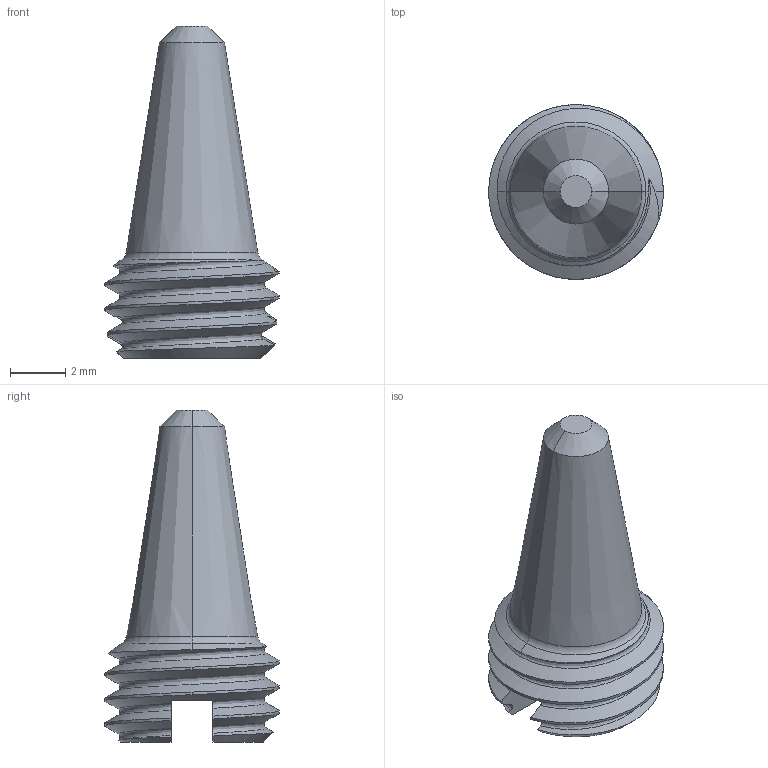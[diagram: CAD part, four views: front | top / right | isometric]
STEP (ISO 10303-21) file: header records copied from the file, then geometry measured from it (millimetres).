
FILE_DESCRIPTION (( 'STEP AP214' ), '1' );
FILE_NAME ('3DFSHB2500000A.STEP', '2021-03-31T18:19:32', ( '' ), ( '' ), 'SwSTEP 2.0', 'SolidWorks 2019', '' );
FILE_SCHEMA (( 'AUTOMOTIVE_DESIGN' ));
Length unit declared in the file: inch
Products named in the file (1): 3DFSHB2500000A
Bounding box: 6.35 x 6.35 x 12.06 mm (x, y, z)
Volume: 164.1 mm3; surface area: 234.8 mm2
Topology: 1 solids, 1 shells, 228 faces, 602 edges, 399 vertices
Faces by surface type: plane 115, bspline 94, cone 10, cylinder 7, torus 2
Entity records: 20671 total; most frequent: CARTESIAN_POINT 13306, ORIENTED_EDGE 1204, DIRECTION 660, EDGE_CURVE 602, VERTEX_POINT 399, LINE 360, VECTOR 360, EDGE_LOOP 251
